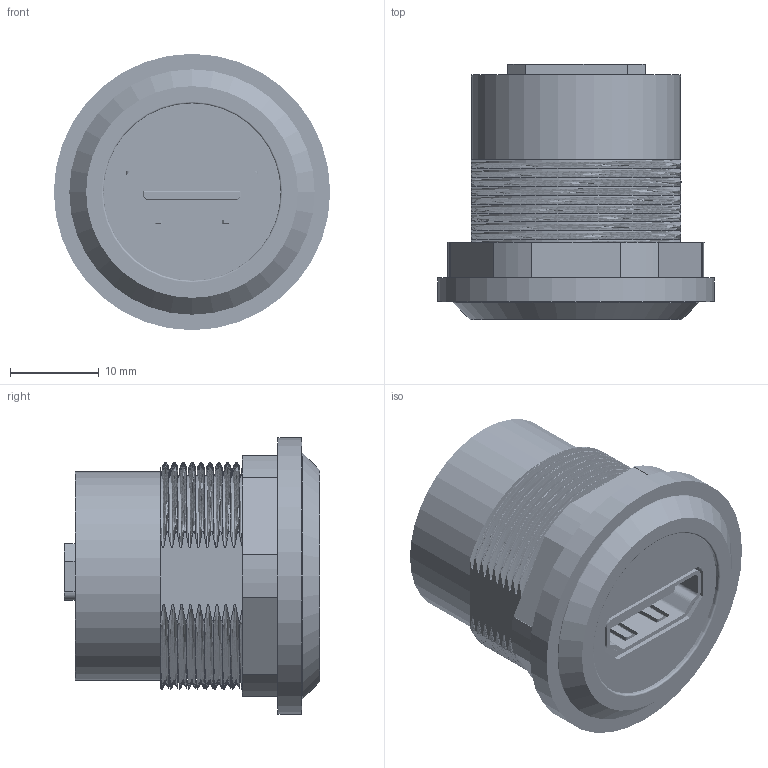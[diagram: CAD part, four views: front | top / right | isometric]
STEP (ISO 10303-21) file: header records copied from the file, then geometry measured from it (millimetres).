
FILE_DESCRIPTION(('FreeCAD Model'),'2;1');
FILE_NAME('Open CASCADE Shape Model','2024-03-19T11:59:08',(''),(''), 'Open CASCADE STEP processor 7.6','FreeCAD','Unknown');
FILE_SCHEMA(('AUTOMOTIVE_DESIGN { 1 0 10303 214 1 1 1 1 }'));
Length unit declared in the file: millimetre
Products named in the file (6): Unnamed; 49190_Coupling-nut; 49190_HDMI_female#001; 49190_HDMI_female#002; 494190_Connector; 49190_O-Ring
Assembly tree (5 placements, depth 2):
  Unnamed
    49190_Coupling-nut
    49190_HDMI_female#001
    49190_HDMI_female#002
    494190_Connector
    49190_O-Ring
Bounding box: 31.2 x 28.8 x 31.2 mm (x, y, z)
Volume: 4947.2 mm3; surface area: 12446.9 mm2
Topology: 5 solids, 5 shells, 968 faces, 2746 edges, 1839 vertices
Faces by surface type: plane 695, cylinder 235, bspline 35, torus 2, cone 1
Full cylindrical faces by diameter (mm): 20 x1, 22.6 x1, 23.6 x2, 27.4 x1, 27.7 x1, 31.2 x1
Entity records: 389680 total; most frequent: CARTESIAN_POINT 364248, ORIENTED_EDGE 5488, DIRECTION 4945, EDGE_CURVE 2744, LINE 2073, VECTOR 2073, VERTEX_POINT 1839, AXIS2_PLACEMENT_3D 1436
